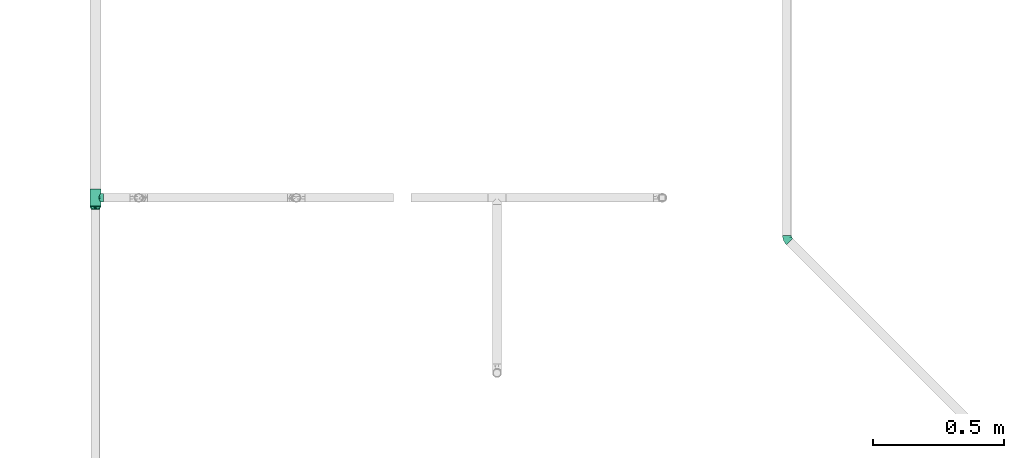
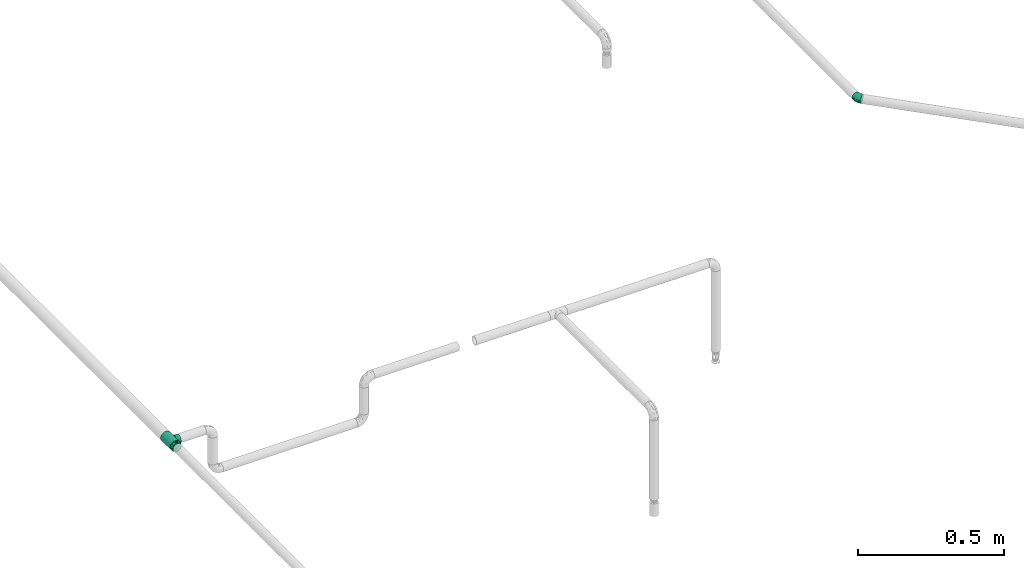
# One storey, part 16 of 17: 3 flow fittings.
"""IFC2X3 building model written with IfcOpenShell, lengths in millimetres."""

from ifc_helpers import new_model, entity, si_unit, converted_unit, derived_unit, direction, frame, origin_with_axes, place, context, subcontext, project, spatial, open_shell, surface_model, source, transform, mapped, type_object, element, save


model = new_model("IFC2X3")

# Units and contexts
model_context = context("Model", 3, precision=0.01, world=frame((0.0, 4.29681676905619e-09, 0.0)), true_north=direction((4.01073788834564e-13, 1.0)))
plan_context = context("Plan", 3, precision=0.01, world=frame((0.0, 4.29681676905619e-09, 0.0)), true_north=direction((4.01073788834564e-13, 1.0)))
body_context = subcontext(model_context, "Body", "Model", "MODEL_VIEW")
ifc_project = project(units=[converted_unit("PLANEANGLEUNIT", "DEGREE", entity("IfcPositiveLengthMeasure", 0.0174532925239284), si_unit("PLANEANGLEUNIT", "RADIAN"), dimensions=[0, 0, 0, 0, 0, 0, 0]), si_unit("AREAUNIT", "SQUARE_METRE"), si_unit("LENGTHUNIT", "METRE", prefix="MILLI"), si_unit("MASSUNIT", "GRAM", prefix="KILO"), si_unit("POWERUNIT", "WATT"), si_unit("PRESSUREUNIT", "PASCAL", prefix="KILO"), si_unit("FORCEUNIT", "NEWTON", prefix="KILO"), si_unit("ELECTRICVOLTAGEUNIT", "VOLT"), si_unit("ELECTRICCURRENTUNIT", "AMPERE"), si_unit("THERMODYNAMICTEMPERATUREUNIT", "DEGREE_CELSIUS"), si_unit("TIMEUNIT", "SECOND"), si_unit("VOLUMEUNIT", "CUBIC_METRE"), derived_unit("LINEARVELOCITYUNIT", [(si_unit("LENGTHUNIT", "METRE"), 1), (si_unit("TIMEUNIT", "SECOND"), -1)]), derived_unit("VOLUMETRICFLOWRATEUNIT", [(si_unit("VOLUMEUNIT", "CUBIC_METRE"), 1), (si_unit("TIMEUNIT", "SECOND"), -1)]), derived_unit("THERMALTRANSMITTANCEUNIT", [(si_unit("POWERUNIT", "WATT"), 1), (si_unit("THERMODYNAMICTEMPERATUREUNIT", "KELVIN"), -1), (si_unit("AREAUNIT", "SQUARE_METRE"), -1)]), derived_unit("SOUNDPRESSUREUNIT", [(si_unit("PRESSUREUNIT", "PASCAL"), 1)])], contexts=[model_context, plan_context])

# Site, building, storey
site_placement = place(None, frame((0.0, -4.29681676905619e-09, 0.0), z_axis=(0.0, 0.0, 1.0), x_axis=(1.0, 0.0, 0.0)))
site = spatial("IfcSite", under=ifc_project, at=site_placement, CompositionType="ELEMENT")
building_placement = place(site_placement, frame((0.0, 4.29681676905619e-09, 0.0), z_axis=(0.0, 0.0, 1.0), x_axis=(1.0, 0.0, 0.0)))
building = spatial("IfcBuilding", under=site, at=building_placement, Name="mc-building", CompositionType="ELEMENT")
storey_placement = place(building_placement, frame((0.0, 0.0, 204000.0), z_axis=(0.0, 0.0, 1.0), x_axis=(1.0, 0.0, 0.0)))
storey = spatial("IfcBuildingStorey", under=building, at=storey_placement, Name="Nivå D", CompositionType="ELEMENT", Elevation=204000.0)

# Flow fittings
pipe_fitting_type_1 = type_object("IfcPipeFittingType", Name="magi_pipe_fe_tee_centric_90_NOR", PredefinedType="JUNCTION")
shared_shape_1 = source(origin_with_axes(), body_context, "Body", "SurfaceModel", [
    surface_model("IfcShellBasedSurfaceModel", [(-33.8, 0.0, -21.2), (-33.8, -5.48696, -20.47763), (-33.8, 5.48696, -20.47763), (-33.8, 10.6, -18.35974), (-33.8, 14.99066, -14.99066), (-33.8, -20.47763, 5.48696), (-33.8, 18.35974, -10.6), (-33.8, 10.6, 18.35974), (-33.8, -14.99066, -14.99066), (-33.8, -18.35974, -10.6), (-33.8, -10.6, -18.35974), (-33.8, -20.47763, -5.48696), (-33.8, -21.2, 0.0), (-33.8, 18.35974, 10.6), (-33.8, 20.47763, -5.48696), (-33.8, 20.47763, 5.48696), (-33.8, 21.2, 0.0), (-33.8, 14.99066, 14.99066), (-33.8, 5.48696, 20.47763), (-33.8, 0.0, 21.2), (-33.8, -18.35974, 10.6), (-33.8, -14.99066, 14.99066), (-33.8, -10.6, 18.35974), (-33.8, -5.48696, 20.47763), (33.8, 5.48696, -20.47763), (33.8, -5.48696, -20.47763), (33.8, 0.0, -21.2), (33.8, 14.99066, -14.99066), (33.8, 10.6, -18.35974), (33.8, 18.35974, -10.6), (33.8, 20.47763, -5.48696), (33.8, -21.2, 0.0), (33.8, -10.6, -18.35974), (33.8, -18.35974, -10.6), (33.8, -14.99066, -14.99066), (33.8, -20.47763, -5.48696), (33.8, -20.47763, 5.48696), (33.8, 21.2, 0.0), (33.8, 20.47763, 5.48696), (33.8, 18.35974, 10.6), (33.8, 10.6, 18.35974), (33.8, 14.99066, 14.99066), (33.8, 0.0, 21.2), (33.8, 5.48696, 20.47763), (33.8, -14.99066, 14.99066), (33.8, -18.35974, 10.6), (33.8, -10.6, 18.35974), (33.8, -5.48696, 20.47763), (16.9, -21.2, 0.0), (15.78624, -20.32327, 6.03364), (12.81343, -18.11115, 11.01935), (8.52479, -15.37862, 14.59239), (3.07939, -13.16482, 16.61708), (-16.9, -21.2, 0.0), (-15.78686, -20.32375, 6.032), (-8.52604, -15.37932, 14.59166), (-3.0848, -13.16609, 16.61608), (-12.81602, -18.11299, 11.01634), (3.07939, -13.16482, -16.61708), (12.81343, -18.11115, -11.01935), (8.52479, -15.37862, -14.59239), (15.78624, -20.32327, -6.03364), (-3.0848, -13.16609, -16.61608), (-8.52604, -15.37932, -14.59166), (-12.81602, -18.11299, -11.01634), (-15.78686, -20.32375, -6.032), (4.37404, -31.8, -16.32415), (-16.9, -31.8, 0.0), (0.0, -31.8, -16.9), (14.63583, -31.8, -8.45), (8.45, -31.8, -14.63583), (16.32415, -31.8, -4.37404), (11.9501, -31.8, -11.9501), (-11.9501, -31.8, -11.9501), (-8.45, -31.8, -14.63583), (-4.37404, -31.8, -16.32415), (-14.63583, -31.8, -8.45), (-16.32415, -31.8, -4.37404), (16.9, -31.8, 0.0), (8.45, -31.8, 14.63583), (16.32415, -31.8, 4.37404), (14.63583, -31.8, 8.45), (-8.45, -31.8, 14.63583), (11.9501, -31.8, 11.9501), (4.37404, -31.8, 16.32415), (-16.32415, -31.8, 4.37404), (-11.9501, -31.8, 11.9501), (-14.63583, -31.8, 8.45), (0.0, -31.8, 16.9), (-4.37404, -31.8, 16.32415), (-16.34343, -20.76188, 3.016), (16.34312, -20.76163, 3.01682), (-0.00271, -13.16546, 16.61658), (16.34312, -20.76163, -3.01682), (-0.00271, -13.16546, -16.61658), (-16.34343, -20.76188, -3.016)], [open_shell([[[0, 1, 2]], [[3, 2, 4]], [[5, 2, 1]], [[4, 2, 6]], [[6, 2, 7]], [[8, 9, 10]], [[1, 10, 9]], [[9, 11, 1]], [[12, 1, 11]], [[5, 1, 12]], [[13, 14, 6]], [[13, 15, 16]], [[6, 7, 13]], [[5, 7, 2]], [[17, 13, 7]], [[18, 7, 19]], [[20, 21, 5]], [[22, 5, 21]], [[23, 19, 22]], [[7, 5, 22]], [[22, 19, 7]], [[16, 14, 13]], [[24, 25, 26]], [[27, 24, 28]], [[29, 30, 24]], [[29, 24, 27]], [[31, 24, 30]], [[32, 33, 34]], [[33, 32, 25]], [[33, 31, 35]], [[31, 33, 25]], [[25, 24, 31]], [[30, 36, 31]], [[37, 38, 39]], [[37, 39, 40]], [[37, 40, 36]], [[40, 39, 41]], [[42, 40, 43]], [[36, 44, 45]], [[44, 36, 46]], [[46, 42, 47]], [[46, 36, 40]], [[40, 42, 46]], [[37, 36, 30]], [[31, 36, 48]], [[49, 48, 36]], [[36, 45, 49]], [[45, 44, 50]], [[51, 50, 44]], [[52, 51, 44]], [[44, 46, 52]], [[45, 50, 49]], [[53, 54, 5]], [[5, 12, 53]], [[54, 20, 5]], [[55, 56, 21]], [[20, 57, 21]], [[57, 20, 54]], [[21, 57, 55]], [[56, 22, 21]], [[52, 22, 56]], [[19, 47, 42]], [[23, 46, 47]], [[18, 42, 43]], [[39, 38, 15]], [[17, 40, 41]], [[13, 41, 39]], [[43, 40, 7]], [[16, 38, 37]], [[22, 46, 23]], [[23, 47, 19]], [[18, 19, 42]], [[43, 7, 18]], [[7, 40, 17]], [[13, 17, 41]], [[15, 13, 39]], [[38, 16, 15]], [[46, 22, 52]], [[6, 30, 29]], [[14, 37, 30]], [[4, 29, 27]], [[26, 25, 1]], [[2, 28, 24]], [[0, 24, 26]], [[27, 28, 3]], [[10, 25, 32]], [[16, 37, 14]], [[14, 30, 6]], [[4, 6, 29]], [[27, 3, 4]], [[3, 28, 2]], [[0, 2, 24]], [[1, 0, 26]], [[25, 10, 1]], [[32, 58, 10]], [[34, 59, 60]], [[59, 34, 33]], [[60, 58, 34]], [[34, 58, 32]], [[35, 31, 48]], [[35, 61, 33]], [[61, 35, 48]], [[33, 61, 59]], [[62, 63, 8]], [[8, 64, 9]], [[64, 8, 63]], [[62, 8, 10]], [[65, 53, 11]], [[65, 11, 9]], [[11, 53, 12]], [[65, 9, 64]], [[58, 62, 10]], [[66, 67, 68]], [[69, 66, 70]], [[69, 71, 66]], [[69, 70, 72]], [[67, 66, 71]], [[68, 73, 74]], [[74, 75, 68]], [[76, 67, 77]], [[73, 68, 76]], [[67, 76, 68]], [[71, 78, 67]], [[79, 78, 80]], [[79, 80, 81]], [[82, 67, 79]], [[79, 81, 83]], [[82, 79, 84]], [[85, 86, 87]], [[86, 85, 82]], [[82, 88, 89]], [[85, 67, 82]], [[84, 88, 82]], [[79, 67, 78]], [[85, 90, 67]], [[57, 87, 86]], [[85, 87, 54]], [[86, 82, 55]], [[85, 54, 90]], [[90, 53, 67]], [[54, 87, 57]], [[91, 49, 80]], [[55, 89, 56]], [[55, 57, 86]], [[88, 52, 92]], [[55, 82, 89]], [[52, 88, 84]], [[79, 51, 84]], [[50, 83, 81]], [[83, 51, 79]], [[81, 80, 49]], [[83, 50, 51]], [[51, 52, 84]], [[78, 91, 80]], [[49, 50, 81]], [[91, 78, 48]], [[88, 56, 89]], [[92, 56, 88]], [[71, 93, 78]], [[59, 69, 72]], [[71, 69, 61]], [[72, 70, 60]], [[93, 48, 78]], [[61, 69, 59]], [[60, 66, 58]], [[60, 59, 72]], [[68, 62, 94]], [[60, 70, 66]], [[95, 67, 53]], [[95, 65, 77]], [[71, 61, 93]], [[75, 62, 68]], [[65, 76, 77]], [[73, 76, 64]], [[68, 58, 66]], [[75, 63, 62]], [[63, 75, 74]], [[74, 73, 63]], [[63, 73, 64]], [[64, 76, 65]], [[67, 95, 77]], [[94, 58, 68]]])]),
])
flow_fitting_1_placement = place(storey_placement, frame((596244.66498, 402317.53152, 2780.0), z_axis=(0.0, 0.0, 1.0), x_axis=(0.0, 1.0, 0.0)))
element("IfcFlowFitting", 1, at=flow_fitting_1_placement, inside=storey, type_object=pipe_fitting_type_1, Name="magi_pipe_fe_tee_centric_90_NOR", context=body_context, shape_type="MappedRepresentation", body=[
    mapped(shared_shape_1, transform((0.0, 0.0, 0.0), scale=1.0)),
])
pipe_fitting_type_2 = type_object("IfcPipeFittingType", Name="magi_pipe_fe_reducer_centric_short_NOR", PredefinedType="TRANSITION")
shared_shape_2 = source(origin_with_axes(), body_context, "Body", "SurfaceModel", [
    surface_model("IfcShellBasedSurfaceModel", [(-2.0, -10.6, -18.35974), (-2.0, 0.0, -21.2), (-2.0, -5.48696, -20.47763), (-2.0, 5.48696, -20.47763), (-2.0, 10.6, -18.35974), (8.6, -11.9501, -11.9501), (8.6, -11.9501, 11.9501), (8.6, -16.9, 0.0), (8.6, 11.9501, -11.9501), (8.6, 16.9, 0.0), (8.6, 0.0, -16.9), (0.0, 17.15116, 12.46105), (0.0, 6.55116, -20.1624), (0.0, -21.2, 0.0), (0.0, -6.55116, -20.1624), (0.0, -17.15116, -12.46105), (8.6, 2.98753, -15.66253), (0.0, 0.0, -20.1624), (0.0, -11.85116, -16.31172), (8.6, -2.98753, -15.66253), (8.6, 8.96258, -13.18758), (8.6, 5.97505, -14.42505), (0.0, 11.85116, -16.31172), (8.6, -5.97505, -14.42505), (8.6, -13.18758, -8.96258), (8.6, -8.96258, -13.18758), (0.0, -6.55116, 20.1624), (8.6, -2.98753, 15.66253), (0.0, 0.0, 20.1624), (8.6, 11.9501, 11.9501), (0.0, 11.85116, 16.31172), (8.6, 2.98753, 15.66253), (0.0, 6.55116, 20.1624), (8.6, -8.96258, 13.18758), (8.6, -5.97505, 14.42505), (0.0, -11.85116, 16.31172), (8.6, 5.97505, 14.42505), (8.6, 13.18758, 8.96258), (8.6, 8.96258, 13.18758), (10.6, 4.37404, -16.32415), (10.6, 8.45, -14.63583), (10.6, 11.9501, -11.9501), (10.6, -8.45, -14.63583), (10.6, 16.32415, -4.37404), (10.6, 16.32415, 4.37404), (10.6, 14.63583, -8.45), (10.6, 0.0, -16.9), (10.6, -4.37404, -16.32415), (10.6, -11.9501, -11.9501), (10.6, -16.32415, -4.37404), (10.6, -14.63583, -8.45), (10.6, -16.32415, 4.37404), (10.6, 16.9, 0.0), (10.6, 14.63583, 8.45), (10.6, 11.9501, 11.9501), (10.6, 4.37404, 16.32415), (10.6, 8.45, 14.63583), (10.6, 0.0, 16.9), (10.6, -14.63583, 8.45), (10.6, -16.9, 0.0), (10.6, -8.45, 14.63583), (10.6, -11.9501, 11.9501), (10.6, -4.37404, 16.32415), (8.6, 4.37404, 16.32415), (8.6, -14.63583, 8.45), (8.6, 0.0, 16.9), (8.6, 16.32415, 4.37404), (8.6, 8.45, 14.63583), (8.6, 14.63583, 8.45), (8.6, -8.45, 14.63583), (8.6, -4.37404, 16.32415), (8.6, -16.32415, 4.37404), (8.6, -16.32415, -4.37404), (8.6, -8.45, -14.63583), (8.6, 16.32415, -4.37404), (8.6, 14.63583, -8.45), (8.6, 8.45, -14.63583), (8.6, 4.37404, -16.32415), (8.6, -14.63583, -8.45), (8.6, -4.37404, -16.32415), (-2.0, 0.0, 21.2), (-2.0, 5.48696, 20.47763), (-2.0, 10.6, 18.35974), (-2.0, 14.99066, 14.99066), (-2.0, 18.35974, 10.6), (-2.0, 20.47763, 5.48696), (-2.0, -21.2, 0.0), (-2.0, -14.99066, -14.99066), (-2.0, -5.48696, 20.47763), (-2.0, -14.99066, 14.99066), (-2.0, -10.6, 18.35974), (-2.0, -18.35974, 10.6), (-2.0, -20.47763, 5.48696), (-2.0, 20.47763, -5.48696), (-2.0, 14.99066, -14.99066), (-2.0, 18.35974, -10.6), (-2.0, -18.35974, -10.6), (-2.0, -20.47763, -5.48696), (-2.0, 21.2, 0.0), (0.0, 10.6, -18.35974), (0.0, 0.0, -21.2), (0.0, 5.48696, -20.47763), (0.0, 20.47763, -5.48696), (0.0, 14.99066, -14.99066), (0.0, -14.99066, -14.99066), (0.0, 18.35974, -10.6), (0.0, -10.6, -18.35974), (0.0, -5.48696, -20.47763), (0.0, -18.35974, -10.6), (0.0, -20.47763, -5.48696), (0.0, -18.35974, 10.6), (0.0, 21.2, 0.0), (0.0, 20.47763, 5.48696), (0.0, 18.35974, 10.6), (0.0, 14.99066, 14.99066), (0.0, 0.0, 21.2), (0.0, 10.6, 18.35974), (0.0, 5.48696, 20.47763), (0.0, -14.99066, 14.99066), (0.0, -20.47763, 5.48696), (0.0, -5.48696, 20.47763), (0.0, -10.6, 18.35974), (0.0, -17.15116, 12.46105), (0.0, 17.15116, -12.46105), (0.0, 14.50116, -14.38638), (8.6, -14.42505, -5.97505), (0.0, -19.17558, -6.23052), (0.0, -18.16337, -9.34579), (8.6, 14.42505, -5.97505), (0.0, 19.17558, -6.23052), (8.6, 13.18758, -8.96258), (8.6, 15.66253, -2.98753), (8.6, -15.66253, -2.98753), (0.0, -14.50116, 14.38638), (8.6, 14.42505, 5.97505), (0.0, 19.17558, 6.23052), (0.0, 18.16337, 9.34579), (8.6, -14.42505, 5.97505), (0.0, -19.17558, 6.23052), (8.6, -13.18758, 8.96258), (8.6, -15.66253, 2.98753), (8.6, 15.66253, 2.98753)], [open_shell([[[0, 1, 2]], [[3, 1, 4]], [[5, 6, 7]], [[8, 9, 10]], [[11, 12, 13]], [[13, 12, 14]], [[13, 14, 15]], [[12, 16, 17]], [[5, 15, 18]], [[17, 19, 14]], [[20, 21, 22]], [[19, 23, 14]], [[12, 21, 16]], [[15, 5, 24]], [[25, 5, 18]], [[22, 8, 20]], [[26, 27, 28]], [[29, 11, 30]], [[28, 31, 32]], [[33, 34, 35]], [[31, 36, 32]], [[26, 34, 27]], [[11, 29, 37]], [[38, 29, 30]], [[35, 6, 33]], [[39, 40, 41]], [[42, 39, 41]], [[41, 43, 44]], [[43, 41, 45]], [[41, 44, 42]], [[46, 42, 47]], [[46, 39, 42]], [[48, 49, 50]], [[49, 48, 42]], [[42, 51, 49]], [[44, 43, 52]], [[44, 53, 54]], [[44, 54, 55]], [[55, 51, 42]], [[55, 54, 56]], [[51, 55, 57]], [[57, 58, 51]], [[59, 49, 51]], [[58, 60, 61]], [[58, 57, 60]], [[60, 57, 62]], [[42, 44, 55]], [[63, 64, 65]], [[66, 63, 67]], [[29, 68, 66]], [[29, 66, 67]], [[64, 63, 66]], [[69, 64, 6]], [[69, 70, 65]], [[65, 64, 69]], [[71, 64, 66]], [[71, 72, 7]], [[71, 66, 73]], [[66, 74, 8]], [[8, 74, 75]], [[8, 76, 77]], [[73, 66, 8]], [[77, 10, 8]], [[72, 5, 78]], [[5, 72, 73]], [[73, 10, 79]], [[72, 71, 73]], [[8, 10, 73]], [[74, 66, 9]], [[72, 49, 7]], [[78, 50, 72]], [[42, 5, 73]], [[78, 5, 48]], [[47, 73, 79]], [[72, 50, 49]], [[49, 59, 7]], [[47, 42, 73]], [[48, 5, 42]], [[48, 50, 78]], [[46, 47, 79]], [[79, 10, 46]], [[77, 39, 10]], [[76, 40, 77]], [[45, 8, 75]], [[76, 8, 41]], [[43, 75, 74]], [[76, 41, 40]], [[40, 39, 77]], [[52, 43, 74]], [[45, 75, 43]], [[45, 41, 8]], [[9, 52, 74]], [[10, 39, 46]], [[66, 44, 9]], [[68, 53, 66]], [[56, 29, 67]], [[68, 29, 54]], [[55, 67, 63]], [[66, 53, 44]], [[44, 52, 9]], [[55, 56, 67]], [[54, 29, 56]], [[54, 53, 68]], [[57, 55, 63]], [[63, 65, 57]], [[70, 62, 65]], [[69, 60, 70]], [[58, 6, 64]], [[69, 6, 61]], [[51, 64, 71]], [[69, 61, 60]], [[60, 62, 70]], [[59, 51, 71]], [[58, 64, 51]], [[58, 61, 6]], [[7, 59, 71]], [[65, 62, 57]], [[80, 81, 82]], [[80, 82, 83]], [[83, 84, 85]], [[83, 85, 80]], [[86, 80, 87]], [[88, 89, 90]], [[88, 80, 89]], [[91, 86, 92]], [[89, 80, 91]], [[80, 86, 91]], [[80, 85, 87]], [[85, 93, 4]], [[94, 93, 95]], [[87, 85, 4]], [[4, 93, 94]], [[86, 96, 97]], [[87, 96, 86]], [[0, 87, 4]], [[1, 0, 4]], [[93, 85, 98]], [[99, 100, 101]], [[102, 99, 103]], [[13, 104, 99]], [[102, 103, 105]], [[102, 13, 99]], [[100, 106, 107]], [[100, 99, 106]], [[108, 13, 109]], [[106, 99, 104]], [[108, 104, 13]], [[110, 102, 111]], [[112, 113, 114]], [[112, 114, 115]], [[116, 117, 115]], [[116, 115, 114]], [[112, 115, 118]], [[13, 110, 119]], [[102, 110, 13]], [[118, 120, 121]], [[110, 112, 118]], [[115, 120, 118]], [[110, 111, 112]], [[97, 109, 86]], [[96, 108, 97]], [[106, 87, 0]], [[96, 87, 104]], [[107, 0, 2]], [[97, 108, 109]], [[109, 13, 86]], [[107, 106, 0]], [[104, 87, 106]], [[104, 108, 96]], [[100, 107, 2]], [[2, 1, 100]], [[3, 101, 1]], [[4, 99, 3]], [[105, 94, 95]], [[4, 94, 103]], [[102, 95, 93]], [[4, 103, 99]], [[99, 101, 3]], [[111, 102, 93]], [[105, 95, 102]], [[105, 103, 94]], [[98, 111, 93]], [[1, 101, 100]], [[85, 112, 98]], [[84, 113, 85]], [[116, 83, 82]], [[84, 83, 114]], [[117, 82, 81]], [[85, 113, 112]], [[112, 111, 98]], [[117, 116, 82]], [[114, 83, 116]], [[114, 113, 84]], [[115, 117, 81]], [[81, 80, 115]], [[88, 120, 80]], [[90, 121, 88]], [[110, 89, 91]], [[90, 89, 118]], [[119, 91, 92]], [[90, 118, 121]], [[121, 120, 88]], [[13, 119, 92]], [[110, 91, 119]], [[110, 118, 89]], [[86, 13, 92]], [[80, 120, 115]], [[65, 6, 29]], [[9, 29, 6]], [[6, 10, 9]], [[10, 6, 5]], [[32, 11, 122]], [[32, 122, 26]], [[122, 11, 13]], [[12, 11, 123]], [[123, 11, 111]], [[8, 22, 124]], [[125, 126, 127]], [[22, 21, 12]], [[8, 124, 123]], [[128, 123, 129]], [[17, 16, 10]], [[123, 128, 130]], [[111, 131, 129]], [[13, 132, 7]], [[18, 23, 25]], [[13, 126, 132]], [[19, 17, 10]], [[131, 111, 9]], [[125, 132, 126]], [[15, 24, 127]], [[24, 125, 127]], [[8, 123, 130]], [[23, 18, 14]], [[131, 128, 129]], [[6, 35, 133]], [[134, 135, 136]], [[35, 34, 26]], [[6, 133, 122]], [[137, 122, 138]], [[28, 27, 65]], [[122, 137, 139]], [[13, 140, 138]], [[111, 141, 9]], [[30, 36, 38]], [[111, 135, 141]], [[31, 28, 65]], [[140, 13, 7]], [[134, 141, 135]], [[11, 37, 136]], [[37, 134, 136]], [[6, 122, 139]], [[36, 30, 32]], [[140, 137, 138]]])]),
])
flow_fitting_2_placement = place(storey_placement, frame((596244.66498, 402283.73152, 2780.0), z_axis=(0.0, 0.0, 1.0), x_axis=(0.0, -1.0, 0.0)))
element("IfcFlowFitting", 2, at=flow_fitting_2_placement, inside=storey, type_object=pipe_fitting_type_2, Name="magi_pipe_fe_reducer_centric_short_NOR", context=body_context, shape_type="MappedRepresentation", body=[
    mapped(shared_shape_2, transform((0.0, 0.0, 0.0), scale=1.0)),
])
pipe_fitting_type_3 = type_object("IfcPipeFittingType", Name="magi_pipe_fe_elbow_short_001", PredefinedType="BEND")
shared_shape_3 = source(origin_with_axes(), body_context, "Body", "SurfaceModel", [
    surface_model("IfcShellBasedSurfaceModel", [(-14.00042, 4.37404, -16.32415), (-14.00042, 0.0, -16.9), (-14.00042, 11.9501, -11.9501), (-14.00042, 8.45, -14.63583), (-14.00042, 16.32415, -4.37404), (-14.00042, 14.63583, -8.45), (-14.00042, -14.63583, -8.45), (-14.00042, -16.32415, -4.37404), (-14.00042, -8.45, 14.63583), (-14.00042, -11.9501, -11.9501), (-14.00042, -8.45, -14.63583), (-14.00042, -4.37404, -16.32415), (-14.00042, -16.9, 0.0), (-14.00042, -16.32415, 4.37404), (-14.00042, 11.9501, 11.9501), (-14.00042, 16.32415, 4.37404), (-14.00042, 14.63583, 8.45), (-14.00042, 4.37404, 16.32415), (-14.00042, 8.45, 14.63583), (-14.00042, -14.63583, 8.45), (-14.00042, -11.9501, 11.9501), (-14.00042, -4.37404, 16.32415), (-14.00042, 0.0, 16.9), (-14.00042, 16.9, 0.0), (1.44979, 18.34979, -11.9501), (9.89979, 9.89979, -16.9), (6.80688, 12.99271, -16.32415), (3.92474, 15.87484, -14.63583), (-0.4493, 20.24888, -8.45), (-1.64312, 21.4427, -4.37404), (20.24888, -0.4493, -8.45), (15.87484, 3.92474, -14.63583), (18.34979, 1.44979, -11.9501), (12.99271, 6.80688, -16.32415), (15.87484, 3.92474, 14.63583), (21.4427, -1.64312, -4.37404), (21.4427, -1.64312, 4.37404), (21.84989, -2.05031, 0.0), (-2.05031, 21.84989, 0.0), (1.44979, 18.34979, 11.9501), (-1.64312, 21.4427, 4.37404), (-0.4493, 20.24888, 8.45), (3.92474, 15.87484, 14.63583), (6.80688, 12.99271, 16.32415), (20.24888, -0.4493, 8.45), (18.34979, 1.44979, 11.9501), (9.89979, 9.89979, 16.9), (12.99271, 6.80688, 16.32415), (-6.69642, -6.19709, 15.44573), (-3.73886, -9.55149, 13.0407), (1.73525, -4.18927, 15.2328), (-5.45721, -12.9253, 9.8956), (12.9984, -5.28073, 9.8956), (-5.04389, -1.62717, 16.6761), (-6.49351, 7.03255, 15.79912), (-1.60742, 3.88065, 16.84061), (-8.46768, 2.34185, 16.79744), (0.50163, 10.15992, 15.77375), (3.05513, 7.9997, 16.65419), (4.30433, -10.39156, 9.41786), (9.11709, 0.35308, 15.44573), (-6.96204, 16.80785, 6.94325), (-7.45285, 14.17314, 10.66504), (-4.80048, 11.58938, 13.79725), (1.45487, -14.20736, 2.98752), (7.72591, -11.71416, 2.98752), (4.99742, -12.06485, 5.88094), (-4.29939, -14.97035, 0.0), (-4.76236, -15.7636, 3.07885), (16.28713, -6.46486, 3.25046), (12.48134, -8.19596, 5.86894), (-6.7692, 18.10883, 3.55089), (-3.03023, -14.62106, 5.86894), (4.71716, 2.41599, 16.6761), (9.3977, -4.11015, 13.0407), (5.40163, -13.04069, 0.0), (13.62576, -7.5455, 0.0), (-7.53307, 18.18644, 0.0), (2.83663, -6.84823, 13.47681), (-5.04389, -1.62717, -16.6761), (9.01737, -11.07487, -2.98752), (2.82012, -13.74621, -2.98752), (4.99742, -12.06485, -5.88094), (4.71716, 2.41599, -16.6761), (-7.53886, 6.82944, -15.77375), (-7.81695, 3.49634, -16.65419), (-4.75196, 15.29189, -10.66504), (9.3977, -4.11015, -13.0407), (-6.96204, 16.80785, -6.94325), (12.48135, -8.19596, -5.86894), (-8.01833, 17.59142, -3.55089), (-0.38116, 9.56437, -15.79912), (-6.9454, -16.08809, -3.25046), (-3.03023, -14.62106, -5.86894), (4.30433, -10.39156, -9.41786), (12.9984, -5.28073, -9.8956), (-5.45721, -12.9253, -9.8956), (-3.73886, -9.55149, -13.0407), (2.83663, -6.84823, -13.47681), (-6.69642, -6.19709, -15.44573), (1.73525, -4.18927, -15.2328), (9.11709, 0.35308, -15.44573), (-1.60742, 3.88065, -16.84061), (-4.80048, 11.58938, -13.79725), (14.51405, -7.77905, -3.07885), (4.33161, 7.64349, -16.79744)], [open_shell([[[0, 1, 2]], [[3, 0, 2]], [[4, 5, 2]], [[6, 2, 1]], [[2, 7, 8]], [[9, 6, 10]], [[1, 11, 10]], [[1, 10, 6]], [[6, 7, 2]], [[12, 13, 7]], [[4, 2, 14]], [[14, 15, 4]], [[16, 15, 14]], [[17, 18, 14]], [[2, 8, 14]], [[17, 14, 8]], [[19, 20, 13]], [[13, 20, 7]], [[21, 22, 8]], [[20, 8, 7]], [[8, 22, 17]], [[23, 4, 15]], [[24, 25, 26]], [[24, 26, 27]], [[24, 28, 29]], [[25, 24, 30]], [[30, 24, 29]], [[31, 30, 32]], [[31, 33, 25]], [[30, 31, 25]], [[30, 34, 35]], [[35, 36, 37]], [[38, 30, 29]], [[39, 38, 40]], [[39, 40, 41]], [[39, 42, 43]], [[38, 39, 34]], [[34, 39, 43]], [[44, 34, 45]], [[36, 35, 44]], [[34, 46, 47]], [[44, 35, 34]], [[46, 34, 43]], [[30, 38, 34]], [[48, 49, 50]], [[20, 51, 49]], [[8, 20, 49]], [[44, 45, 52]], [[22, 21, 53]], [[21, 8, 48]], [[18, 17, 54]], [[55, 56, 53]], [[22, 56, 17]], [[43, 57, 58]], [[49, 51, 59]], [[34, 47, 60]], [[61, 16, 62]], [[63, 14, 18]], [[64, 65, 66]], [[67, 64, 68]], [[69, 36, 70]], [[61, 71, 15]], [[19, 13, 72]], [[23, 15, 71]], [[15, 16, 61]], [[20, 19, 51]], [[54, 63, 18]], [[72, 66, 59]], [[12, 67, 68]], [[42, 39, 63]], [[46, 58, 73]], [[45, 34, 74]], [[41, 40, 61]], [[73, 47, 46]], [[64, 67, 75]], [[45, 74, 52]], [[55, 58, 57]], [[74, 34, 60]], [[19, 72, 51]], [[76, 69, 65]], [[36, 69, 37]], [[56, 54, 17]], [[71, 61, 40]], [[77, 71, 38]], [[52, 59, 70]], [[49, 78, 50]], [[50, 73, 53]], [[43, 42, 57]], [[50, 60, 73]], [[61, 62, 41]], [[55, 53, 73]], [[39, 41, 62]], [[63, 54, 57]], [[48, 53, 21]], [[16, 14, 62]], [[36, 44, 70]], [[59, 51, 72]], [[78, 59, 74]], [[59, 52, 74]], [[70, 44, 52]], [[14, 63, 62]], [[39, 62, 63]], [[63, 57, 42]], [[55, 57, 54]], [[49, 48, 8]], [[53, 48, 50]], [[73, 60, 47]], [[74, 60, 50]], [[73, 58, 55]], [[46, 43, 58]], [[53, 56, 22]], [[54, 56, 55]], [[64, 66, 72]], [[70, 59, 66]], [[64, 72, 68]], [[65, 64, 75]], [[76, 65, 75]], [[70, 66, 65]], [[72, 13, 68]], [[12, 68, 13]], [[59, 78, 49]], [[74, 50, 78]], [[38, 71, 40]], [[71, 77, 23]], [[65, 69, 70]], [[37, 69, 76]], [[11, 1, 79]], [[80, 81, 82]], [[25, 33, 83]], [[84, 85, 0]], [[5, 86, 2]], [[31, 32, 87]], [[88, 86, 5]], [[30, 35, 89]], [[4, 90, 88]], [[27, 26, 91]], [[92, 7, 93]], [[3, 84, 0]], [[67, 92, 81]], [[94, 95, 89]], [[7, 92, 12]], [[96, 9, 97]], [[9, 10, 97]], [[98, 94, 97]], [[7, 6, 93]], [[9, 96, 6]], [[99, 10, 11]], [[96, 94, 93]], [[100, 79, 83]], [[101, 83, 33]], [[23, 77, 90]], [[80, 76, 75]], [[38, 29, 90]], [[102, 83, 79]], [[24, 27, 103]], [[88, 5, 4]], [[28, 86, 88]], [[99, 97, 10]], [[91, 103, 27]], [[85, 79, 1]], [[103, 91, 84]], [[2, 103, 3]], [[76, 80, 104]], [[25, 105, 26]], [[101, 33, 31]], [[89, 82, 94]], [[32, 30, 95]], [[87, 100, 101]], [[87, 95, 94]], [[100, 99, 79]], [[37, 76, 104]], [[28, 24, 86]], [[105, 91, 26]], [[95, 87, 32]], [[87, 98, 100]], [[105, 83, 102]], [[102, 85, 84]], [[29, 88, 90]], [[30, 89, 95]], [[29, 28, 88]], [[94, 96, 97]], [[93, 6, 96]], [[24, 103, 86]], [[2, 86, 103]], [[103, 84, 3]], [[102, 84, 91]], [[79, 99, 11]], [[97, 99, 100]], [[87, 101, 31]], [[83, 101, 100]], [[79, 85, 102]], [[1, 0, 85]], [[83, 105, 25]], [[91, 105, 102]], [[80, 82, 89]], [[93, 94, 82]], [[80, 89, 104]], [[81, 80, 75]], [[67, 81, 75]], [[93, 82, 81]], [[89, 35, 104]], [[37, 104, 35]], [[94, 98, 87]], [[97, 100, 98]], [[23, 90, 4]], [[90, 77, 38]], [[81, 92, 93]], [[12, 92, 67]]])]),
])
flow_fitting_3_placement = place(storey_placement, frame((598878.66879, 402160.515, 3390.0), z_axis=(0.0, 0.0, 1.0), x_axis=(0.0, -1.0, 0.0)))
element("IfcFlowFitting", 3, at=flow_fitting_3_placement, inside=storey, type_object=pipe_fitting_type_3, Name="magi_pipe_fe_elbow_short_001", context=body_context, shape_type="MappedRepresentation", body=[
    mapped(shared_shape_3, transform((0.0, 0.0, 0.0), scale=1.0)),
])

save(model, "model.ifc")
